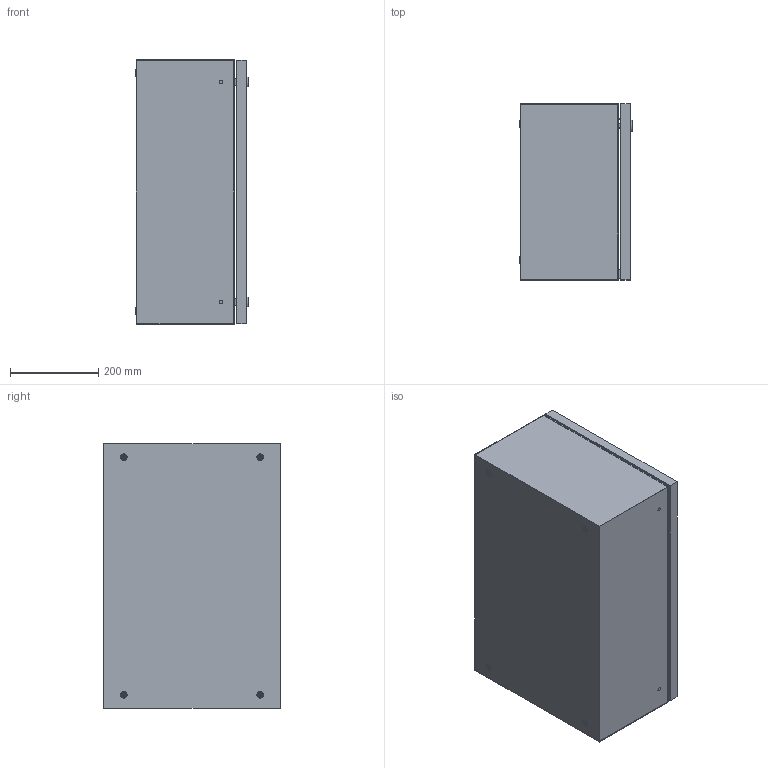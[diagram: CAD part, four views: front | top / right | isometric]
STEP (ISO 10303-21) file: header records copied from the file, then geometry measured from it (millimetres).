
FILE_DESCRIPTION(/* description */ ('Unknown'),/* implementation_level */ '2;1');
FILE_NAME(/* name */ 'CCA04006025',/* time_stamp */ '2024-07-29T09:37:45+02:00',/* author */ ('Unknown'),/* organization */ ('Unknown'),/* preprocessor_version */ 'ST-DEVELOPER v19.4',/* originating_system */ 'Solid Edge',/* authorisation */ 'Unknown');
FILE_SCHEMA (('AUTOMOTIVE_DESIGN {1 0 10303 214 3 1 1}'));
Length unit declared in the file: millimetre
Products named in the file (16): CCA04006025; C000X001.14_oa_0; C0000000.95; C0000000.04; C0000000.05; AE00316.01; AE00601.01; AE00891.02; C0000000.01; AE00417.01; C000X000.22_oa_1; C000X000.23_oa_2; C0000000.33; C0000000.02; AE00198.02; AE00989.09
Assembly tree (35 placements, depth 4):
  CCA04006025
    C000X001.14_oa_0
      C0000000.95
      C0000000.04  x4
      C0000000.05  x4
      AE00316.01  x2
      AE00601.01  x2
      AE00891.02  x2
      C0000000.01  x2
      AE00417.01  x4
    C000X000.22_oa_1
      C000X000.23_oa_2
        C0000000.33
      C0000000.02  x2
      AE00198.02  x2
      AE00989.09  x2
      AE00417.01  x2
    AE00198.02  x2
Bounding box: 255 x 400 x 600 mm (x, y, z)
Volume: 1813147.9 mm3; surface area: 2052576.8 mm2
Topology: 34 solids, 34 shells, 666 faces, 1620 edges, 1054 vertices
Faces by surface type: plane 434, cylinder 162, cone 36, torus 34
Full cylindrical faces by diameter (mm): 4 x2, 4.917 x6, 4.918 x2, 5.4 x2, 6 x14, 6.4 x2, 7.5 x6, 8 x4, 8.376 x8, 10 x6, 10.25 x4, 10.5 x4, 11 x2, 13.6 x2, 14 x4, 15 x4, 16 x4, 16.3 x2, 19.5 x2, 28 x2
Entity records: 11376 total; most frequent: CARTESIAN_POINT 1749, DIRECTION 1672, ORIENTED_EDGE 1540, EDGE_CURVE 770, AXIS2_PLACEMENT_3D 560, LINE 552, VECTOR 552, VERTEX_POINT 528
